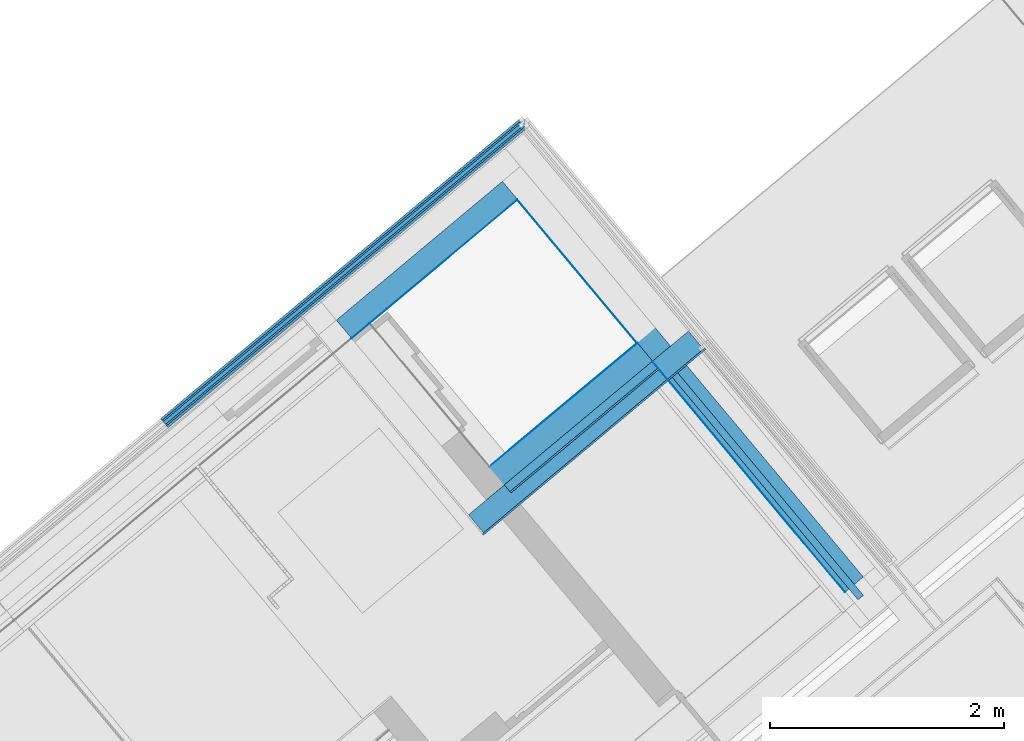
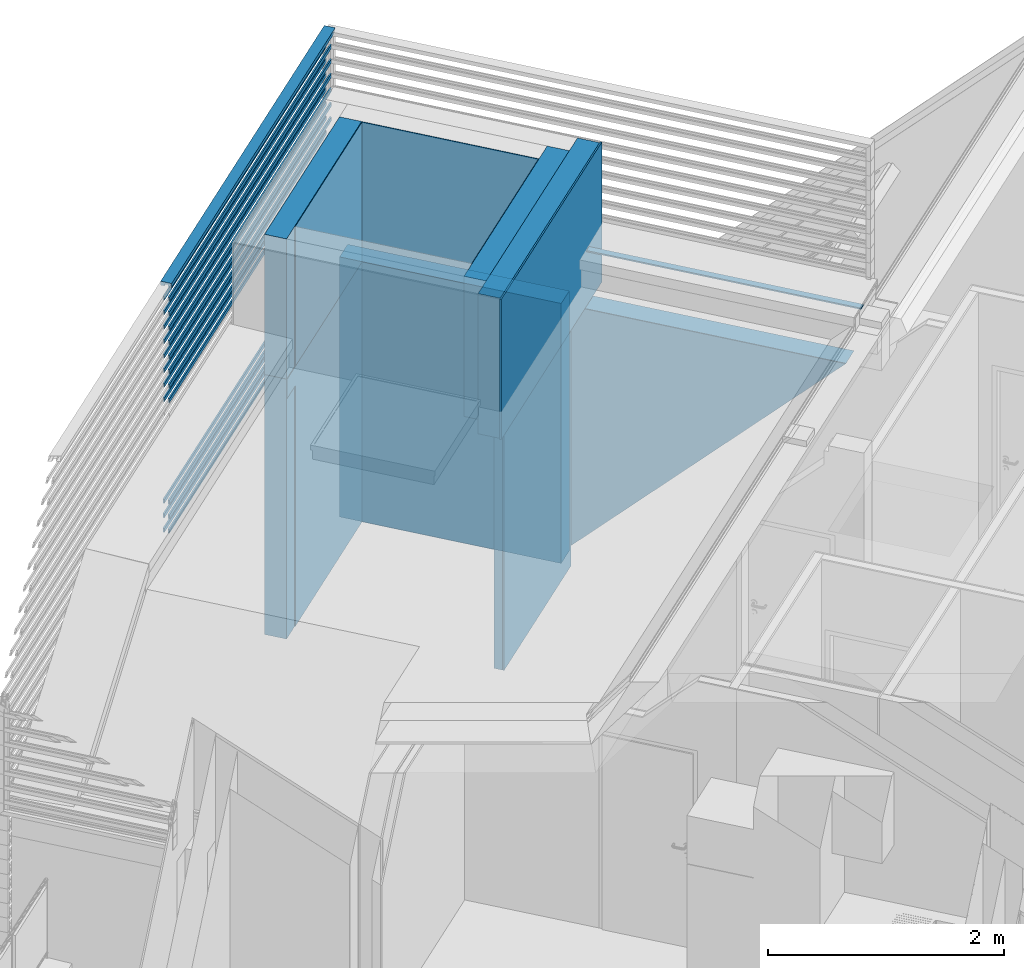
# One storey, part 29 of 50: 28 building element parts, 9 elements without a shape of their own.
"""IFC4 building model written with IfcOpenShell, lengths in metres."""

from ifc_helpers import new_model, entity, si_unit, converted_unit, derived_unit, direction, frame, origin_with_axes, place, context, subcontext, project, spatial, polygons, material, type_object, element, aggregate, save


model = new_model("IFC4")

# Units and contexts
model_context = context("Model", 3, precision=1e-05, world=origin_with_axes(), true_north=direction((0.0, 1.0)))
body_context = subcontext(model_context, "Body", "Model", "MODEL_VIEW")
ifc_project = project(units=[si_unit("LENGTHUNIT", "METRE"), si_unit("AREAUNIT", "SQUARE_METRE"), si_unit("VOLUMEUNIT", "CUBIC_METRE"), converted_unit("PLANEANGLEUNIT", "DEGREE", entity("IfcPlaneAngleMeasure", 0.0174532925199), si_unit("PLANEANGLEUNIT", "RADIAN"), dimensions=[0, 0, 0, 0, 0, 0, 0]), converted_unit("TIMEUNIT", "Year", entity("IfcTimeMeasure", 31556926.0), si_unit("TIMEUNIT", "SECOND"), dimensions=[0, 0, 1, 0, 0, 0, 0]), si_unit("MASSUNIT", "GRAM", prefix="KILO"), si_unit("THERMODYNAMICTEMPERATUREUNIT", "DEGREE_CELSIUS"), si_unit("LUMINOUSINTENSITYUNIT", "LUMEN"), si_unit("ENERGYUNIT", "JOULE", prefix="MEGA"), derived_unit("THERMALCONDUCTANCEUNIT", [(si_unit("POWERUNIT", "WATT"), 1), (si_unit("LENGTHUNIT", "METRE"), -1), (si_unit("THERMODYNAMICTEMPERATUREUNIT", "KELVIN"), -1)]), derived_unit("SPECIFICHEATCAPACITYUNIT", [(si_unit("ENERGYUNIT", "JOULE"), 1), (si_unit("MASSUNIT", "GRAM", prefix="KILO"), -1), (si_unit("THERMODYNAMICTEMPERATUREUNIT", "KELVIN"), -1)]), derived_unit("MASSDENSITYUNIT", [(si_unit("MASSUNIT", "GRAM", prefix="KILO"), 1), (si_unit("VOLUMEUNIT", "CUBIC_METRE"), -1)])], contexts=[model_context])

# Site, building, storey
site_placement = place(None, frame((-0.00153261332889, -0.00661245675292, 0.0), z_axis=(0.0, 0.0, 1.0), x_axis=(1.0, 0.0, 0.0)))
site = spatial("IfcSite", under=ifc_project, at=site_placement, Name="Gelände", CompositionType="ELEMENT")
building_placement = place(site_placement, origin_with_axes())
building = spatial("IfcBuilding", under=site, at=building_placement, Name="Gebäude", CompositionType="ELEMENT")
storey_placement = place(building_placement, frame((0.0, 0.0, 8.66), z_axis=(0.0, 0.0, 1.0), x_axis=(1.0, 0.0, 0.0)))
storey = spatial("IfcBuildingStorey", under=building, at=storey_placement, Name="DG2", CompositionType="ELEMENT", Elevation=8.66)

# Wall, building element parts
wall_type_1 = type_object("IfcWallType", Name="AW EG 420", PredefinedType="NOTDEFINED")
wall_1_placement = place(storey_placement, frame((-0.0828746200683, 26.2046404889, 0.0), z_axis=(0.0, 0.0, 1.0), x_axis=(0.767365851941, 0.641209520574, 0.0)))
wall_1 = element("IfcWall", 1, at=wall_1_placement, inside=storey, type_object=wall_type_1, Name="Wand-002", PredefinedType="NOTDEFINED")
ifc_material_1 = material(Name="Stahlbeton Wand")
building_element_part_1_placement = place(wall_1_placement, origin_with_axes())
building_element_part_1 = element("IfcBuildingElementPart", 2, at=building_element_part_1_placement, material=ifc_material_1, Name="Stahlbeton Wand", PredefinedType="NOTDEFINED", context=body_context, shape_type="Tessellation", body=[
    polygons([(1.84974244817, -0.215, 2.69), (0.0, -0.215, 2.69), (0.0, -0.415, 2.69), (1.84974247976, -0.415, 2.69), (1.84974244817, -0.215, 0.0), (0.0, -0.215, 0.0), (0.0, -0.415, 0.0), (1.84974247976, -0.415, 0.0)], [[[1, 2, 3, 4]], [[5, 6, 2, 1]], [[3, 2, 6, 7]], [[4, 3, 7, 8]], [[4, 8, 5, 1]], [[8, 7, 6, 5]]], closed=True),
])
ifc_material_2 = material(Name="Zementputz")
building_element_part_2_placement = place(wall_1_placement, origin_with_axes())
building_element_part_2 = element("IfcBuildingElementPart", 3, at=building_element_part_2_placement, material=ifc_material_2, Name="Zementputz", PredefinedType="NOTDEFINED", context=body_context, shape_type="Tessellation", body=[
    polygons([(0.19984396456, -0.42, 2.49), (0.19984396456, -0.42, 0.0), (1.84474248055, -0.42, 0.0), (1.84474248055, -0.42, 2.69), (0.0, -0.42, 2.69), (0.0, -0.42, 2.49), (0.199846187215, -0.415, 2.49), (0.199846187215, -0.415, 0.0), (1.84474247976, -0.415, 0.0), (1.84474247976, -0.415, 2.69), (0.0, -0.415, 2.69), (0.0, -0.415, 2.49)], [[[1, 2, 3, 4, 5, 6]], [[2, 1, 7, 8]], [[2, 8, 9, 3]], [[10, 4, 3, 9]], [[4, 10, 11, 5]], [[12, 6, 5, 11]], [[1, 6, 12, 7]], [[7, 12, 11, 10, 9, 8]]], closed=True),
])
aggregate(wall_1, [building_element_part_1, building_element_part_2])

wall_2_placement = place(storey_placement, frame((1.60265649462, 27.072256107, 2.69), z_axis=(0.0, 0.0, 1.0), x_axis=(-0.767365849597, -0.641209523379, 0.0)))
wall_2 = element("IfcWall", 4, at=wall_2_placement, inside=storey, type_object=wall_type_1, Name="Wand-002", PredefinedType="NOTDEFINED")
building_element_part_3_placement = place(wall_2_placement, origin_with_axes())
building_element_part_3 = element("IfcBuildingElementPart", 5, at=building_element_part_3_placement, material=ifc_material_2, Name="Zementputz", PredefinedType="NOTDEFINED", context=body_context, shape_type="Tessellation", body=[
    polygons([(1.64956916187, 0.0, 0.0), (0.005, 0.0, 0.0), (0.00500000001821, 0.005, 0.0), (1.64956947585, 0.005, 0.0), (1.64956916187, 0.0, 1.45), (0.005, 0.0, 1.45), (0.00500000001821, 0.005, 1.45), (1.64956947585, 0.005, 1.45)], [[[1, 2, 3, 4]], [[5, 6, 2, 1]], [[3, 2, 6, 7]], [[4, 3, 7, 8]], [[4, 8, 5, 1]], [[8, 7, 6, 5]]], closed=True),
])
building_element_part_4_placement = place(wall_2_placement, origin_with_axes())
building_element_part_4 = element("IfcBuildingElementPart", 6, at=building_element_part_4_placement, material=ifc_material_1, Name="Stahlbeton Wand", PredefinedType="NOTDEFINED", context=body_context, shape_type="Tessellation", body=[
    polygons([(1.84955660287, -0.2, 0.0), (-7.28515914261e-10, -0.2, 0.0), (0.0, 0.0, 0.0), (1.84956916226, 0.0, 0.0), (1.84955660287, -0.2, 1.45), (-7.28515914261e-10, -0.2, 1.45), (0.0, 0.0, 1.45), (1.84956916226, 0.0, 1.45)], [[[1, 2, 3, 4]], [[5, 6, 2, 1]], [[3, 2, 6, 7]], [[4, 3, 7, 8]], [[4, 8, 5, 1]], [[8, 7, 6, 5]]], closed=True),
])
aggregate(wall_2, [building_element_part_3, building_element_part_4])

# Space
space_1_placement = place(storey_placement, frame((2.62853065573, 25.842931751, 0.00145373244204), z_axis=(0.0, 0.0, 1.0), x_axis=(-0.641209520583, 0.767365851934, 0.0)))
space_1 = spatial("IfcSpace", under=storey, at=space_1_placement, CompositionType="ELEMENT", PredefinedType="NOTDEFINED")

# Wall, building element parts
wall_3_placement = place(space_1_placement, frame((2.01614181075, -0.416033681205, -0.00145373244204), z_axis=(0.0, 0.0, 1.0), x_axis=(-1.0, -1.57918665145e-07, 0.0)))
wall_3 = element("IfcWall", 7, at=wall_3_placement, inside=space_1, type_object=wall_type_1, Name="Wand-002", PredefinedType="NOTDEFINED")
building_element_part_5_placement = place(wall_3_placement, origin_with_axes())
building_element_part_5 = element("IfcBuildingElementPart", 8, at=building_element_part_5_placement, material=ifc_material_1, Name="Stahlbeton Wand", PredefinedType="NOTDEFINED", context=body_context, shape_type="Tessellation", body=[
    polygons([(0.214999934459, -0.414999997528, 2.69), (2.21618214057, -0.414999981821, 2.69), (2.2162256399, -0.215000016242, 2.69), (0.214999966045, -0.215000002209, 2.69), (0.214999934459, -0.414999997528, 0.0), (2.21618214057, -0.414999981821, 0.0), (2.2162256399, -0.215000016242, 0.0), (0.214999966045, -0.215000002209, 0.0)], [[[1, 2, 3, 4]], [[5, 6, 2, 1]], [[6, 7, 3, 2]], [[4, 3, 7, 8]], [[1, 4, 8, 5]], [[8, 7, 6, 5]]], closed=True),
])
building_element_part_6_placement = place(wall_3_placement, origin_with_axes())
building_element_part_6 = element("IfcBuildingElementPart", 9, at=building_element_part_6_placement, material=ifc_material_2, Name="Zementputz", PredefinedType="NOTDEFINED", context=body_context, shape_type="Tessellation", body=[
    polygons([(2.01624032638, -0.42, 2.69), (2.01624070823, -0.414999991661, 2.69), (0.414999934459, -0.414999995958, 2.69), (0.414999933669, -0.42, 2.69), (2.01624070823, -0.414999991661, 0.0), (2.01624032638, -0.42, 0.0), (0.414999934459, -0.414999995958, 0.0), (0.414999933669, -0.42, 0.0)], [[[1, 2, 3, 4]], [[5, 2, 1, 6]], [[2, 5, 7, 3]], [[4, 3, 7, 8]], [[6, 1, 4, 8]], [[5, 6, 8, 7]]], closed=True),
])
aggregate(wall_3, [building_element_part_5, building_element_part_6])

wall_4_placement = place(space_1_placement, frame((-2.89194951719e-06, 1.64863602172, 2.68854626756), z_axis=(0.0, 0.0, 1.0), x_axis=(1.75602248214e-05, -0.999999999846, 0.0)))
wall_4 = element("IfcWall", 10, at=wall_4_placement, inside=space_1, type_object=wall_type_1, Name="Wand-002", PredefinedType="NOTDEFINED")
building_element_part_7_placement = place(wall_4_placement, origin_with_axes())
building_element_part_7 = element("IfcBuildingElementPart", 11, at=building_element_part_7_placement, material=ifc_material_2, Name="Zementputz", PredefinedType="NOTDEFINED", context=body_context, shape_type="Tessellation", body=[
    polygons([(1.64966979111, 0.005, 0.0), (1.64966970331, 0.0, 0.0), (0.0, 0.0, 0.0), (4.01767699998e-07, 0.005, 0.0), (1.64966979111, 0.005, 1.45), (1.64966970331, 0.0, 1.45), (0.0, 0.0, 1.45), (4.01767699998e-07, 0.005, 1.45)], [[[1, 2, 3, 4]], [[2, 1, 5, 6]], [[2, 6, 7, 3]], [[8, 4, 3, 7]], [[5, 1, 4, 8]], [[6, 5, 8, 7]]], closed=True),
])
building_element_part_8_placement = place(wall_4_placement, origin_with_axes())
building_element_part_8 = element("IfcBuildingElementPart", 12, at=building_element_part_8_placement, material=ifc_material_1, Name="Stahlbeton Wand", PredefinedType="NOTDEFINED", context=body_context, shape_type="Tessellation", body=[
    polygons([(1.84966970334, 0.0, 0.0), (1.84966619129, -0.2, 0.0), (-0.200016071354, -0.2, 0.0), (-0.200000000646, 0.0, 0.0), (1.84966970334, 0.0, 1.45), (1.84966619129, -0.2, 1.45), (-0.200016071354, -0.2, 1.45), (-0.200000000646, 0.0, 1.45)], [[[1, 2, 3, 4]], [[2, 1, 5, 6]], [[2, 6, 7, 3]], [[8, 4, 3, 7]], [[5, 1, 4, 8]], [[6, 5, 8, 7]]], closed=True),
])
ifc_material_3 = material(Name="EPS 1")
building_element_part_9_placement = place(wall_4_placement, origin_with_axes())
building_element_part_9 = element("IfcBuildingElementPart", 13, at=building_element_part_9_placement, material=ifc_material_3, Name="EPS 1", PredefinedType="NOTDEFINED", context=body_context, shape_type="Tessellation", body=[
    polygons([(2.04966619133, -0.2, 0.0), (2.04966267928, -0.4, 0.0), (-0.400032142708, -0.4, 0.0), (-0.400016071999, -0.2, 0.0), (2.04966619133, -0.2, 1.45), (2.04966267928, -0.4, 1.45), (-0.400032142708, -0.4, 1.45), (-0.400016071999, -0.2, 1.45)], [[[1, 2, 3, 4]], [[2, 1, 5, 6]], [[2, 6, 7, 3]], [[8, 4, 3, 7]], [[5, 1, 4, 8]], [[6, 5, 8, 7]]], closed=True),
])
building_element_part_10_placement = place(wall_4_placement, origin_with_axes())
building_element_part_10 = element("IfcBuildingElementPart", 14, at=building_element_part_10_placement, material=ifc_material_2, Name="Zementputz", PredefinedType="NOTDEFINED", context=body_context, shape_type="Tessellation", body=[
    polygons([(2.06466267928, -0.4, 0.0), (2.06466241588, -0.415, 0.0), (-0.415033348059, -0.415, 0.0), (-0.415032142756, -0.4, 0.0), (2.06466267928, -0.4, 1.45), (2.06466241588, -0.415, 1.45), (-0.415033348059, -0.415, 1.45), (-0.415032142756, -0.4, 1.45)], [[[1, 2, 3, 4]], [[2, 1, 5, 6]], [[2, 6, 7, 3]], [[8, 4, 3, 7]], [[5, 1, 4, 8]], [[6, 5, 8, 7]]], closed=True),
])
aggregate(wall_4, [building_element_part_7, building_element_part_8, building_element_part_9, building_element_part_10])

# Wall, building element part
wall_5_placement = place(space_1_placement, frame((2.60766213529e-05, -0.00103368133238, 2.68854626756), z_axis=(0.0, 0.0, 1.0), x_axis=(1.0, 0.0, 0.0)))
wall_5 = element("IfcWall", 15, at=wall_5_placement, inside=space_1, type_object=wall_type_1, Name="Wand-002", PredefinedType="NOTDEFINED")
building_element_part_11_placement = place(wall_5_placement, origin_with_axes())
building_element_part_11 = element("IfcBuildingElementPart", 16, at=building_element_part_11_placement, material=ifc_material_2, Name="Zementputz", PredefinedType="NOTDEFINED", context=body_context, shape_type="Tessellation", body=[
    polygons([(1.60111573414, 0.0, 0.0), (0.00500000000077, 0.0, 0.0), (0.00499991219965, 0.005, 0.0), (1.60111573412, 0.005, 0.0), (1.60111573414, 0.0, 1.45), (0.00500000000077, 0.0, 1.45), (0.00499991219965, 0.005, 1.45), (1.60111573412, 0.005, 1.45)], [[[1, 2, 3, 4]], [[5, 6, 2, 1]], [[3, 2, 6, 7]], [[4, 3, 7, 8]], [[4, 8, 5, 1]], [[8, 7, 6, 5]]], closed=True),
])
aggregate(wall_5, [building_element_part_11])

# Space
space_2_placement = place(storey_placement, frame((1.54811484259, 24.5632734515, 0.22), z_axis=(0.0, 0.0, 1.0), x_axis=(0.640845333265, -0.767670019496, 0.0)))
space_2 = spatial("IfcSpace", under=storey, at=space_2_placement, CompositionType="ELEMENT", PredefinedType="NOTDEFINED")

# Wall, building element part
wall_type_2 = type_object("IfcWallType", Name="Individuelles Profil 574 x 610", PredefinedType="NOTDEFINED")
wall_6_placement = place(space_2_placement, frame((0.124931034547, 1.8506033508, 2.47), z_axis=(0.0, 0.0, 1.0), x_axis=(0.999999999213, 3.96646163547e-05, 0.0)))
wall_6 = element("IfcWall", 17, at=wall_6_placement, inside=space_2, type_object=wall_type_2, Name="Wand-004", PredefinedType="NOTDEFINED")
ifc_material_4 = material(Name="Vollholz")
building_element_part_12_placement = place(wall_6_placement, origin_with_axes())
building_element_part_12 = element("IfcBuildingElementPart", 18, at=building_element_part_12_placement, material=ifc_material_4, Name="Vollholz", PredefinedType="NOTDEFINED", context=body_context, shape_type="Tessellation", body=[
    polygons([(2.47638259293, -0.160110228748, 0.573880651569), (2.47635645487, -0.1, 0.575979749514), (0.0, -0.1, 0.575979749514), (0.0, -0.160110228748, 0.573880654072), (2.47635645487, -0.1, 0.573880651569), (2.47635645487, -0.1, 0.567947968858), (2.47635645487, -0.1, 0.55999999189), (0.0, -0.1, 0.560000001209), (0.0, -0.16, 0.560000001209), (2.47638257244, -0.160063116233, 0.567947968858), (2.476382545, -0.16, 0.55999999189)], [[[1, 2, 3, 4]], [[5, 2, 1]], [[2, 5, 6, 7, 8, 3]], [[4, 3, 8, 9]], [[10, 1, 4, 9, 11]], [[5, 1, 10, 6]], [[6, 10, 11, 7]], [[7, 11, 9, 8]]], closed=True),
])
aggregate(wall_6, [building_element_part_12])

# Wall, building element parts
wall_type_3 = type_object("IfcWallType", Name="LB 9,0 cm einfache Vorsatzschale  90", PredefinedType="NOTDEFINED")
wall_7_placement = place(space_2_placement, frame((-0.0899999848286, -0.000102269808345, -0.22), z_axis=(0.0, 0.0, 1.0), x_axis=(-2.02762429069e-09, 1.0, 0.0)))
wall_7 = element("IfcWall", 19, at=wall_7_placement, inside=space_2, type_object=wall_type_3, Name="Wand-006", PredefinedType="NOTDEFINED")
ifc_material_5 = material(Name="Mineralwolle weich")
building_element_part_13_placement = place(wall_7_placement, origin_with_axes())
building_element_part_13 = element("IfcBuildingElementPart", 20, at=building_element_part_13_placement, material=ifc_material_5, Name="Mineralwolle weich", PredefinedType="NOTDEFINED", context=body_context, shape_type="Tessellation", body=[
    polygons([(1.65069703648, 0.0, 2.48999999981), (0.0, 0.0, 2.48999999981), (2.24753211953e-06, -0.075, 2.48999999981), (1.65069703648, -0.075, 2.48999999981), (1.65069703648, 0.0, 0.0), (0.0, 0.0, 0.0), (2.24753211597e-06, -0.075, 0.0), (1.65069703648, -0.075, 0.0)], [[[1, 2, 3, 4]], [[5, 6, 2, 1]], [[6, 7, 3, 2]], [[4, 3, 7, 8]], [[8, 5, 1, 4]], [[8, 7, 6, 5]]], closed=True),
])
ifc_material_6 = material(Name="Gipskarton")
building_element_part_14_placement = place(wall_7_placement, origin_with_axes())
building_element_part_14 = element("IfcBuildingElementPart", 21, at=building_element_part_14_placement, material=ifc_material_6, Name="Gipskarton", PredefinedType="NOTDEFINED", context=body_context, shape_type="Tessellation", body=[
    polygons([(2.24753211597e-06, -0.075, 2.48999999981), (2.69703854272e-06, -0.09, 2.48999999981), (1.65069703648, -0.09, 2.48999999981), (1.65069703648, -0.075, 2.48999999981), (2.69703854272e-06, -0.09, 0.0), (2.24753211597e-06, -0.075, 0.0), (1.65069703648, -0.09, 0.0), (1.65069703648, -0.075, 0.0)], [[[1, 2, 3, 4]], [[5, 2, 1, 6]], [[2, 5, 7, 3]], [[8, 4, 3, 7]], [[6, 1, 4, 8]], [[5, 6, 8, 7]]], closed=True),
])
aggregate(wall_7, [building_element_part_13, building_element_part_14])

wall_8_placement = place(space_2_placement, frame((-0.0900427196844, 2.06559482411, -0.22), z_axis=(0.0, 0.0, 1.0), x_axis=(0.999999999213, 3.96646163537e-05, 0.0)))
wall_8 = element("IfcWall", 22, at=wall_8_placement, inside=space_2, type_object=wall_type_1, Name="Wand-002", PredefinedType="NOTDEFINED")
building_element_part_15_placement = place(wall_8_placement, origin_with_axes())
building_element_part_15 = element("IfcBuildingElementPart", 23, at=building_element_part_15_placement, material=ifc_material_1, Name="Stahlbeton Wand", PredefinedType="NOTDEFINED", context=body_context, shape_type="Tessellation", body=[
    polygons([(4.67617913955e-05, -0.215000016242, 0.119382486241), (4.67617913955e-05, -0.215000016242, 2.69), (2.57058840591, -0.215, 2.69), (2.57058840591, -0.215, 2.68992394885), (9.0261121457e-05, -0.414999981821, 0.119350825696), (9.0261121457e-05, -0.414999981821, 2.69), (2.57058840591, -0.415, 2.69), (2.57058840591, -0.415, 2.68984878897)], [[[1, 2, 3, 4]], [[5, 6, 2, 1]], [[3, 2, 6, 7]], [[4, 3, 7, 8]], [[1, 4, 8, 5]], [[7, 6, 5, 8]]], closed=True),
])
building_element_part_16_placement = place(wall_8_placement, origin_with_axes())
building_element_part_16 = element("IfcBuildingElementPart", 24, at=building_element_part_16_placement, material=ifc_material_2, Name="Zementputz", PredefinedType="NOTDEFINED", context=body_context, shape_type="Tessellation", body=[
    polygons([(0.000148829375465, -0.41499999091, 0.119409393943), (0.000148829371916, -0.41499999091, 2.69), (2.57058840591, -0.415, 2.69), (2.57058840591, -0.415, 2.68984878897), (0.000150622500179, -0.42, 2.69), (0.000150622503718, -0.42, 0.11940930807), (2.57058840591, -0.42, 2.69), (2.57058840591, -0.42, 2.68984690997)], [[[1, 2, 3, 4]], [[5, 2, 1, 6]], [[2, 5, 7, 3]], [[4, 3, 7, 8]], [[4, 8, 6, 1]], [[5, 6, 8, 7]]], closed=True),
])
aggregate(wall_8, [building_element_part_15, building_element_part_16])

# Space
space_3_placement = place(storey_placement, frame((-4.06558748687, 22.1637970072, 0.22), z_axis=(0.0, 0.0, 1.0), x_axis=(-0.767365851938, -0.641209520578, 0.0)))
space_3 = spatial("IfcSpace", under=storey, at=space_3_placement, CompositionType="ELEMENT", PredefinedType="NOTDEFINED")

# Curtain wall, building element parts
curtain_wall_type = type_object("IfcCurtainWallType", Name="Fassadentyp", PredefinedType="NOTDEFINED")
curtain_wall_placement = place(space_3_placement, frame((-1.95298492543, -0.601365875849, 0.1), z_axis=(0.0, 0.0, 1.0), x_axis=(-0.767365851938, 0.641209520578, 0.0)))
curtain_wall = element("IfcCurtainWall", 25, at=curtain_wall_placement, inside=space_3, type_object=curtain_wall_type, Name="Fassade-001", PredefinedType="NOTDEFINED")
ifc_material_7 = material(Name="Blech")
building_element_part_17_placement = place(curtain_wall_placement, origin_with_axes())
building_element_part_17 = element("IfcBuildingElementPart", 26, at=building_element_part_17_placement, material=ifc_material_7, Name="Blech", PredefinedType="NOTDEFINED", context=body_context, shape_type="Tessellation", body=[
    polygons([(1.54752517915, 1.27174910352, 1.8), (1.54752517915, 1.27174910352, 1.82), (4.60799902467, 3.8254681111, 1.82), (4.60799902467, 3.8254681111, 1.8), (4.60799902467, 3.8254681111, 1.78), (1.54752517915, 1.27174910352, 1.78), (1.55713532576, 1.26023193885, 1.78), (1.55713532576, 1.26023193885, 1.82), (4.61760917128, 3.81395094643, 1.82), (4.61760917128, 3.81395094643, 1.78)], [[[1, 2, 3, 4, 5, 6]], [[6, 7, 8, 2, 1]], [[3, 2, 8, 9]], [[4, 3, 9, 10, 5]], [[5, 10, 7, 6]], [[9, 8, 7, 10]]], closed=True),
    polygons([(4.58877873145, 3.84850244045, 1.78), (4.57916858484, 3.86001960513, 1.78), (4.57916858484, 3.86001960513, 1.82), (4.58877873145, 3.84850244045, 1.82), (4.58877873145, 3.84850244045, 1.8), (1.52830488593, 1.29478343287, 1.78), (1.51869473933, 1.30630059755, 1.78), (1.51869473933, 1.30630059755, 1.82), (1.52830488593, 1.29478343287, 1.82), (1.52830488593, 1.29478343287, 1.8)], [[[1, 2, 3, 4, 5]], [[6, 7, 2, 1]], [[2, 7, 8, 3]], [[9, 4, 3, 8]], [[5, 4, 9, 10, 6, 1]], [[10, 9, 8, 7, 6]]], closed=True),
])
building_element_part_18_placement = place(curtain_wall_placement, origin_with_axes())
building_element_part_18 = element("IfcBuildingElementPart", 27, at=building_element_part_18_placement, material=ifc_material_7, Name="Blech", PredefinedType="NOTDEFINED", context=body_context, shape_type="Tessellation", body=[
    polygons([(1.54752517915, 1.27174910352, 1.95), (1.54752517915, 1.27174910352, 1.97), (4.60799902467, 3.8254681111, 1.97), (4.60799902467, 3.8254681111, 1.95), (4.60799902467, 3.8254681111, 1.93), (1.54752517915, 1.27174910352, 1.93), (1.55713532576, 1.26023193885, 1.93), (1.55713532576, 1.26023193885, 1.97), (4.61760917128, 3.81395094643, 1.97), (4.61760917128, 3.81395094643, 1.93)], [[[1, 2, 3, 4, 5, 6]], [[6, 7, 8, 2, 1]], [[3, 2, 8, 9]], [[4, 3, 9, 10, 5]], [[5, 10, 7, 6]], [[9, 8, 7, 10]]], closed=True),
    polygons([(4.58877873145, 3.84850244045, 1.93), (4.57916858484, 3.86001960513, 1.93), (4.57916858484, 3.86001960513, 1.97), (4.58877873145, 3.84850244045, 1.97), (4.58877873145, 3.84850244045, 1.95), (1.52830488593, 1.29478343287, 1.93), (1.51869473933, 1.30630059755, 1.93), (1.51869473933, 1.30630059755, 1.97), (1.52830488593, 1.29478343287, 1.97), (1.52830488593, 1.29478343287, 1.95)], [[[1, 2, 3, 4, 5]], [[6, 7, 2, 1]], [[2, 7, 8, 3]], [[9, 4, 3, 8]], [[5, 4, 9, 10, 6, 1]], [[10, 9, 8, 7, 6]]], closed=True),
])
building_element_part_19_placement = place(curtain_wall_placement, origin_with_axes())
building_element_part_19 = element("IfcBuildingElementPart", 28, at=building_element_part_19_placement, material=ifc_material_7, Name="Blech", PredefinedType="NOTDEFINED", context=body_context, shape_type="Tessellation", body=[
    polygons([(1.54752517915, 1.27174910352, 2.1), (1.54752517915, 1.27174910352, 2.12), (4.60799902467, 3.8254681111, 2.12), (4.60799902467, 3.8254681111, 2.1), (4.60799902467, 3.8254681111, 2.08), (1.54752517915, 1.27174910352, 2.08), (1.55713532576, 1.26023193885, 2.08), (1.55713532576, 1.26023193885, 2.12), (4.61760917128, 3.81395094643, 2.12), (4.61760917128, 3.81395094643, 2.08)], [[[1, 2, 3, 4, 5, 6]], [[6, 7, 8, 2, 1]], [[3, 2, 8, 9]], [[4, 3, 9, 10, 5]], [[5, 10, 7, 6]], [[9, 8, 7, 10]]], closed=True),
    polygons([(4.58877873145, 3.84850244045, 2.08), (4.57916858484, 3.86001960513, 2.08), (4.57916858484, 3.86001960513, 2.12), (4.58877873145, 3.84850244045, 2.12), (4.58877873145, 3.84850244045, 2.1), (1.52830488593, 1.29478343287, 2.08), (1.51869473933, 1.30630059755, 2.08), (1.51869473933, 1.30630059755, 2.12), (1.52830488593, 1.29478343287, 2.12), (1.52830488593, 1.29478343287, 2.1)], [[[1, 2, 3, 4, 5]], [[6, 7, 2, 1]], [[2, 7, 8, 3]], [[9, 4, 3, 8]], [[5, 4, 9, 10, 6, 1]], [[10, 9, 8, 7, 6]]], closed=True),
])
building_element_part_20_placement = place(curtain_wall_placement, origin_with_axes())
building_element_part_20 = element("IfcBuildingElementPart", 29, at=building_element_part_20_placement, material=ifc_material_7, Name="Blech", PredefinedType="NOTDEFINED", context=body_context, shape_type="Tessellation", body=[
    polygons([(1.54752517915, 1.27174910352, 3.15), (1.54752517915, 1.27174910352, 3.17), (4.60799902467, 3.8254681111, 3.17), (4.60799902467, 3.8254681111, 3.15), (4.60799902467, 3.8254681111, 3.13), (1.54752517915, 1.27174910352, 3.13), (1.55713532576, 1.26023193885, 3.13), (1.55713532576, 1.26023193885, 3.17), (4.61760917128, 3.81395094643, 3.17), (4.61760917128, 3.81395094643, 3.13)], [[[1, 2, 3, 4, 5, 6]], [[6, 7, 8, 2, 1]], [[3, 2, 8, 9]], [[4, 3, 9, 10, 5]], [[5, 10, 7, 6]], [[9, 8, 7, 10]]], closed=True),
    polygons([(4.58877873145, 3.84850244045, 3.13), (4.57916858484, 3.86001960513, 3.13), (4.57916858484, 3.86001960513, 3.17), (4.58877873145, 3.84850244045, 3.17), (4.58877873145, 3.84850244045, 3.15), (1.52830488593, 1.29478343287, 3.13), (1.51869473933, 1.30630059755, 3.13), (1.51869473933, 1.30630059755, 3.17), (1.52830488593, 1.29478343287, 3.17), (1.52830488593, 1.29478343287, 3.15)], [[[1, 2, 3, 4, 5]], [[6, 7, 2, 1]], [[2, 7, 8, 3]], [[9, 4, 3, 8]], [[5, 4, 9, 10, 6, 1]], [[10, 9, 8, 7, 6]]], closed=True),
])
building_element_part_21_placement = place(curtain_wall_placement, origin_with_axes())
building_element_part_21 = element("IfcBuildingElementPart", 30, at=building_element_part_21_placement, material=ifc_material_7, Name="Blech", PredefinedType="NOTDEFINED", context=body_context, shape_type="Tessellation", body=[
    polygons([(1.54752517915, 1.27174910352, 3.3), (1.54752517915, 1.27174910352, 3.32), (4.60799902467, 3.8254681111, 3.32), (4.60799902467, 3.8254681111, 3.3), (4.60799902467, 3.8254681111, 3.28), (1.54752517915, 1.27174910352, 3.28), (1.55713532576, 1.26023193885, 3.28), (1.55713532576, 1.26023193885, 3.32), (4.61760917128, 3.81395094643, 3.32), (4.61760917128, 3.81395094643, 3.28)], [[[1, 2, 3, 4, 5, 6]], [[6, 7, 8, 2, 1]], [[3, 2, 8, 9]], [[4, 3, 9, 10, 5]], [[5, 10, 7, 6]], [[9, 8, 7, 10]]], closed=True),
    polygons([(4.58877873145, 3.84850244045, 3.28), (4.57916858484, 3.86001960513, 3.28), (4.57916858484, 3.86001960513, 3.32), (4.58877873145, 3.84850244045, 3.32), (4.58877873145, 3.84850244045, 3.3), (1.52830488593, 1.29478343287, 3.28), (1.51869473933, 1.30630059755, 3.28), (1.51869473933, 1.30630059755, 3.32), (1.52830488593, 1.29478343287, 3.32), (1.52830488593, 1.29478343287, 3.3)], [[[1, 2, 3, 4, 5]], [[6, 7, 2, 1]], [[2, 7, 8, 3]], [[9, 4, 3, 8]], [[5, 4, 9, 10, 6, 1]], [[10, 9, 8, 7, 6]]], closed=True),
])
building_element_part_22_placement = place(curtain_wall_placement, origin_with_axes())
building_element_part_22 = element("IfcBuildingElementPart", 31, at=building_element_part_22_placement, material=ifc_material_7, Name="Blech", PredefinedType="NOTDEFINED", context=body_context, shape_type="Tessellation", body=[
    polygons([(1.54752517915, 1.27174910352, 3.45), (1.54752517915, 1.27174910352, 3.47), (4.60799902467, 3.8254681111, 3.47), (4.60799902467, 3.8254681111, 3.45), (4.60799902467, 3.8254681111, 3.43), (1.54752517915, 1.27174910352, 3.43), (1.55713532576, 1.26023193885, 3.43), (1.55713532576, 1.26023193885, 3.47), (4.61760917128, 3.81395094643, 3.47), (4.61760917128, 3.81395094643, 3.43)], [[[1, 2, 3, 4, 5, 6]], [[6, 7, 8, 2, 1]], [[3, 2, 8, 9]], [[4, 3, 9, 10, 5]], [[5, 10, 7, 6]], [[9, 8, 7, 10]]], closed=True),
    polygons([(4.58877873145, 3.84850244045, 3.43), (4.57916858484, 3.86001960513, 3.43), (4.57916858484, 3.86001960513, 3.47), (4.58877873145, 3.84850244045, 3.47), (4.58877873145, 3.84850244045, 3.45), (1.52830488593, 1.29478343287, 3.43), (1.51869473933, 1.30630059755, 3.43), (1.51869473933, 1.30630059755, 3.47), (1.52830488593, 1.29478343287, 3.47), (1.52830488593, 1.29478343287, 3.45)], [[[1, 2, 3, 4, 5]], [[6, 7, 2, 1]], [[2, 7, 8, 3]], [[9, 4, 3, 8]], [[5, 4, 9, 10, 6, 1]], [[10, 9, 8, 7, 6]]], closed=True),
])
building_element_part_23_placement = place(curtain_wall_placement, origin_with_axes())
building_element_part_23 = element("IfcBuildingElementPart", 32, at=building_element_part_23_placement, material=ifc_material_7, Name="Blech", PredefinedType="NOTDEFINED", context=body_context, shape_type="Tessellation", body=[
    polygons([(1.54752517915, 1.27174910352, 3.6), (1.54752517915, 1.27174910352, 3.62), (4.60799902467, 3.8254681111, 3.62), (4.60799902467, 3.8254681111, 3.6), (4.60799902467, 3.8254681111, 3.58), (1.54752517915, 1.27174910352, 3.58), (1.55713532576, 1.26023193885, 3.58), (1.55713532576, 1.26023193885, 3.62), (4.61760917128, 3.81395094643, 3.62), (4.61760917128, 3.81395094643, 3.58)], [[[1, 2, 3, 4, 5, 6]], [[6, 7, 8, 2, 1]], [[3, 2, 8, 9]], [[4, 3, 9, 10, 5]], [[5, 10, 7, 6]], [[9, 8, 7, 10]]], closed=True),
    polygons([(4.58877873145, 3.84850244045, 3.58), (4.57916858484, 3.86001960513, 3.58), (4.57916858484, 3.86001960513, 3.62), (4.58877873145, 3.84850244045, 3.62), (4.58877873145, 3.84850244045, 3.6), (1.52830488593, 1.29478343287, 3.58), (1.51869473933, 1.30630059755, 3.58), (1.51869473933, 1.30630059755, 3.62), (1.52830488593, 1.29478343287, 3.62), (1.52830488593, 1.29478343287, 3.6)], [[[1, 2, 3, 4, 5]], [[6, 7, 2, 1]], [[2, 7, 8, 3]], [[9, 4, 3, 8]], [[5, 4, 9, 10, 6, 1]], [[10, 9, 8, 7, 6]]], closed=True),
])
building_element_part_24_placement = place(curtain_wall_placement, origin_with_axes())
building_element_part_24 = element("IfcBuildingElementPart", 33, at=building_element_part_24_placement, material=ifc_material_7, Name="Blech", PredefinedType="NOTDEFINED", context=body_context, shape_type="Tessellation", body=[
    polygons([(1.54752517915, 1.27174910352, 3.75), (1.54752517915, 1.27174910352, 3.77), (4.60799902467, 3.8254681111, 3.77), (4.60799902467, 3.8254681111, 3.75), (4.60799902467, 3.8254681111, 3.73), (1.54752517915, 1.27174910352, 3.73), (1.55713532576, 1.26023193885, 3.73), (1.55713532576, 1.26023193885, 3.77), (4.61760917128, 3.81395094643, 3.77), (4.61760917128, 3.81395094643, 3.73)], [[[1, 2, 3, 4, 5, 6]], [[6, 7, 8, 2, 1]], [[3, 2, 8, 9]], [[4, 3, 9, 10, 5]], [[5, 10, 7, 6]], [[9, 8, 7, 10]]], closed=True),
    polygons([(4.58877873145, 3.84850244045, 3.73), (4.57916858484, 3.86001960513, 3.73), (4.57916858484, 3.86001960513, 3.77), (4.58877873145, 3.84850244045, 3.77), (4.58877873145, 3.84850244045, 3.75), (1.52830488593, 1.29478343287, 3.73), (1.51869473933, 1.30630059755, 3.73), (1.51869473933, 1.30630059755, 3.77), (1.52830488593, 1.29478343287, 3.77), (1.52830488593, 1.29478343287, 3.75)], [[[1, 2, 3, 4, 5]], [[6, 7, 2, 1]], [[2, 7, 8, 3]], [[9, 4, 3, 8]], [[5, 4, 9, 10, 6, 1]], [[10, 9, 8, 7, 6]]], closed=True),
])
building_element_part_25_placement = place(curtain_wall_placement, origin_with_axes())
building_element_part_25 = element("IfcBuildingElementPart", 34, at=building_element_part_25_placement, material=ifc_material_7, Name="Blech", PredefinedType="NOTDEFINED", context=body_context, shape_type="Tessellation", body=[
    polygons([(1.54752517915, 1.27174910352, 3.9), (1.54752517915, 1.27174910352, 3.92), (4.60799902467, 3.8254681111, 3.92), (4.60799902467, 3.8254681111, 3.9), (4.60799902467, 3.8254681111, 3.88), (1.54752517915, 1.27174910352, 3.88), (1.55713532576, 1.26023193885, 3.88), (1.55713532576, 1.26023193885, 3.92), (4.61760917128, 3.81395094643, 3.92), (4.61760917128, 3.81395094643, 3.88)], [[[1, 2, 3, 4, 5, 6]], [[6, 7, 8, 2, 1]], [[3, 2, 8, 9]], [[4, 3, 9, 10, 5]], [[5, 10, 7, 6]], [[9, 8, 7, 10]]], closed=True),
    polygons([(4.58877873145, 3.84850244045, 3.88), (4.57916858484, 3.86001960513, 3.88), (4.57916858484, 3.86001960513, 3.92), (4.58877873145, 3.84850244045, 3.92), (4.58877873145, 3.84850244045, 3.9), (1.52830488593, 1.29478343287, 3.88), (1.51869473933, 1.30630059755, 3.88), (1.51869473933, 1.30630059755, 3.92), (1.52830488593, 1.29478343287, 3.92), (1.52830488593, 1.29478343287, 3.9)], [[[1, 2, 3, 4, 5]], [[6, 7, 2, 1]], [[2, 7, 8, 3]], [[9, 4, 3, 8]], [[5, 4, 9, 10, 6, 1]], [[10, 9, 8, 7, 6]]], closed=True),
])
building_element_part_26_placement = place(curtain_wall_placement, origin_with_axes())
building_element_part_26 = element("IfcBuildingElementPart", 35, at=building_element_part_26_placement, material=ifc_material_7, Name="Blech", PredefinedType="NOTDEFINED", context=body_context, shape_type="Tessellation", body=[
    polygons([(1.54752517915, 1.27174910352, 4.05), (1.54752517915, 1.27174910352, 4.07), (4.60799902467, 3.8254681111, 4.07), (4.60799902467, 3.8254681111, 4.05), (4.60799902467, 3.8254681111, 4.03), (1.54752517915, 1.27174910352, 4.03), (1.55713532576, 1.26023193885, 4.03), (1.55713532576, 1.26023193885, 4.07), (4.61760917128, 3.81395094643, 4.07), (4.61760917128, 3.81395094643, 4.03)], [[[1, 2, 3, 4, 5, 6]], [[6, 7, 8, 2, 1]], [[3, 2, 8, 9]], [[4, 3, 9, 10, 5]], [[5, 10, 7, 6]], [[9, 8, 7, 10]]], closed=True),
    polygons([(4.58877873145, 3.84850244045, 4.03), (4.57916858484, 3.86001960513, 4.03), (4.57916858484, 3.86001960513, 4.07), (4.58877873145, 3.84850244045, 4.07), (4.58877873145, 3.84850244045, 4.05), (1.52830488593, 1.29478343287, 4.03), (1.51869473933, 1.30630059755, 4.03), (1.51869473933, 1.30630059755, 4.07), (1.52830488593, 1.29478343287, 4.07), (1.52830488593, 1.29478343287, 4.05)], [[[1, 2, 3, 4, 5]], [[6, 7, 2, 1]], [[2, 7, 8, 3]], [[9, 4, 3, 8]], [[5, 4, 9, 10, 6, 1]], [[10, 9, 8, 7, 6]]], closed=True),
])
building_element_part_27_placement = place(curtain_wall_placement, origin_with_axes())
building_element_part_27 = element("IfcBuildingElementPart", 36, at=building_element_part_27_placement, material=ifc_material_7, Name="Blech", PredefinedType="NOTDEFINED", context=body_context, shape_type="Tessellation", body=[
    polygons([(1.54752517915, 1.27174910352, 4.2), (1.54752517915, 1.27174910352, 4.22), (4.60799902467, 3.8254681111, 4.22), (4.60799902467, 3.8254681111, 4.2), (4.60799902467, 3.8254681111, 4.18), (1.54752517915, 1.27174910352, 4.18), (1.55713532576, 1.26023193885, 4.18), (1.55713532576, 1.26023193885, 4.22), (4.61760917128, 3.81395094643, 4.22), (4.61760917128, 3.81395094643, 4.18)], [[[1, 2, 3, 4, 5, 6]], [[6, 7, 8, 2, 1]], [[3, 2, 8, 9]], [[4, 3, 9, 10, 5]], [[5, 10, 7, 6]], [[9, 8, 7, 10]]], closed=True),
    polygons([(4.58877873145, 3.84850244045, 4.18), (4.57916858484, 3.86001960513, 4.18), (4.57916858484, 3.86001960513, 4.22), (4.58877873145, 3.84850244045, 4.22), (4.58877873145, 3.84850244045, 4.2), (1.52830488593, 1.29478343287, 4.18), (1.51869473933, 1.30630059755, 4.18), (1.51869473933, 1.30630059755, 4.22), (1.52830488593, 1.29478343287, 4.22), (1.52830488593, 1.29478343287, 4.2)], [[[1, 2, 3, 4, 5]], [[6, 7, 2, 1]], [[2, 7, 8, 3]], [[9, 4, 3, 8]], [[5, 4, 9, 10, 6, 1]], [[10, 9, 8, 7, 6]]], closed=True),
])
building_element_part_28_placement = place(curtain_wall_placement, origin_with_axes())
building_element_part_28 = element("IfcBuildingElementPart", 37, at=building_element_part_28_placement, material=ifc_material_7, Name="Blech", PredefinedType="NOTDEFINED", context=body_context, shape_type="Tessellation", body=[
    polygons([(4.62335524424, 3.83828163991, 4.35000006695), (4.60413495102, 3.86131596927, 4.35000006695), (4.58877873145, 3.84850244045, 4.33000006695), (4.56635505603, 3.8753758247, 4.33000006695), (4.59706749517, 3.90100288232, 4.37000006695), (4.66113513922, 3.82422178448, 4.37000006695), (4.63042270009, 3.79859472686, 4.33000006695), (4.60799902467, 3.8254681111, 4.33000006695), (1.54752517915, 1.27174910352, 4.35000006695), (1.52830488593, 1.29478343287, 4.35000006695), (1.52830488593, 1.29478343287, 4.33000006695), (1.50588121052, 1.32165681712, 4.33000006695), (1.50588121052, 1.32165681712, 4.37000006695), (1.56994885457, 1.24487571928, 4.37000006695), (1.56994885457, 1.24487571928, 4.33000006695), (1.54752517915, 1.27174910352, 4.33000006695)], [[[1, 2, 3, 4, 5, 6, 7, 8]], [[2, 1, 9, 10]], [[11, 3, 2, 10]], [[3, 11, 12, 4]], [[13, 5, 4, 12]], [[14, 6, 5, 13]], [[15, 7, 6, 14]], [[16, 8, 7, 15]], [[1, 8, 16, 9]], [[9, 16, 15, 14, 13, 12, 11, 10]]], closed=True),
])
aggregate(curtain_wall, [building_element_part_17, building_element_part_18, building_element_part_19, building_element_part_20, building_element_part_21, building_element_part_22, building_element_part_23, building_element_part_24, building_element_part_25, building_element_part_26, building_element_part_27, building_element_part_28])

save(model, "model.ifc")
